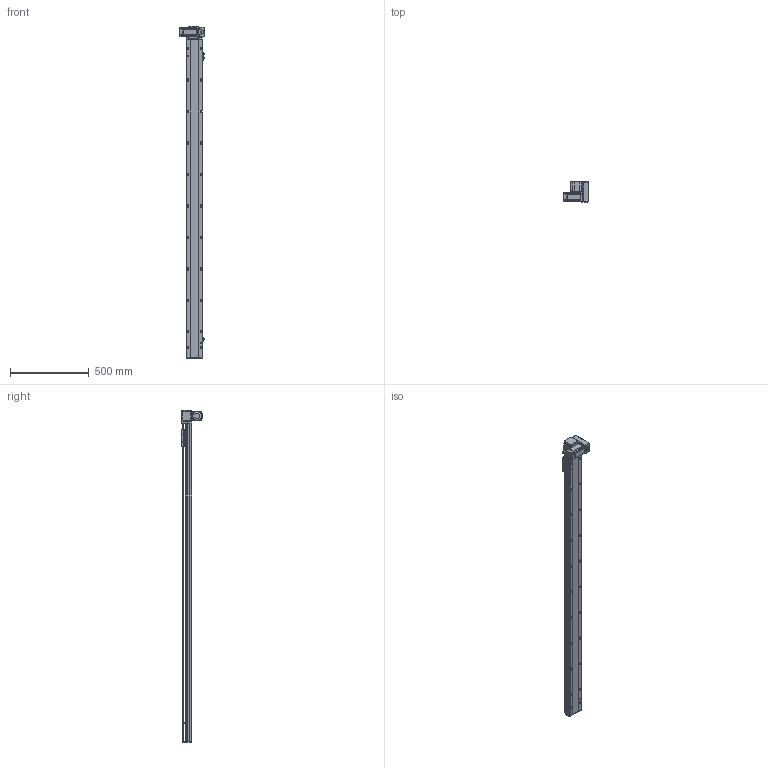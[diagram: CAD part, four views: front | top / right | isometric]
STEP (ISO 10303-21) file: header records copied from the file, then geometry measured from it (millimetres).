
FILE_DESCRIPTION (( 'STEP AP214' ), '1' );
FILE_NAME ('TPT10-L41.6-1800-RD-T20-C4.STEP', '2023-03-02T07:54:32', ( '' ), ( '' ), 'SwSTEP 2.0', 'SolidWorks 2020', '' );
FILE_SCHEMA (( 'AUTOMOTIVE_DESIGN' ));
Length unit declared in the file: millimetre
Products named in the file (11): hexagon head bolts-full thread gb_GB_FASTENER_BOLT_STBAB A M5X16-N; TPT10-L41.6-1800-RD-T20-C4; hex nuts, style 1-grades ab gb_GB_FASTENER_NUT_SNAB1 M3-N; 葩璃 TPT10-L-005 賑釱MZ-102A-03^TPT10-L41.6-RD-T20-C4; 葩璃 TPT10-L-001 菁釱MZ-102A-01^TPT10-L41.6-RD-T20-C4; 葩璃 pm-t65-672^TPT10-L41.6-RD-T20-C4; 葩璃 TPT10-L-007 々湍釱MZ-169x88^TPT10-L41.6-RD-T20-C4_L; 葩璃 TPT10-L-002 奻裔MZ-102A-02^TPT10-L41.6-RD-T20-C4; 葩璃 TPT10-L-009 萇儂啣^TPT10-L41.6-RD-T20-C4_100W; hexagon socket head cap screws gb_GB_FASTENER_SCREWS_HSHCS M3X6-N; 侂狟400W
Assembly tree (22 placements, depth 2):
  TPT10-L41.6-1800-RD-T20-C4
    葩璃 TPT10-L-001 菁釱MZ-102A-01^TPT10-L41.6-RD-T20-C4
    葩璃 TPT10-L-002 奻裔MZ-102A-02^TPT10-L41.6-RD-T20-C4
    葩璃 TPT10-L-007 々湍釱MZ-169x88^TPT10-L41.6-RD-T20-C4_L
    葩璃 TPT10-L-005 賑釱MZ-102A-03^TPT10-L41.6-RD-T20-C4
    葩璃 TPT10-L-009 萇儂啣^TPT10-L41.6-RD-T20-C4_100W
    葩璃 pm-t65-672^TPT10-L41.6-RD-T20-C4  x3
    侂狟400W
    hexagon head bolts-full thread gb_GB_FASTENER_BOLT_STBAB A M5X16-N
    hexagon socket head cap screws gb_GB_FASTENER_SCREWS_HSHCS M3X6-N  x6
    hex nuts, style 1-grades ab gb_GB_FASTENER_NUT_SNAB1 M3-N  x6
Bounding box: 160.7 x 134.65 x 2110 mm (x, y, z)
Volume: 6696873.2 mm3; surface area: 1304341.3 mm2
Topology: 30 solids, 30 shells, 1792 faces, 4699 edges, 2984 vertices
Faces by surface type: plane 976, cylinder 572, cone 206, bspline 26, torus 12
Entity records: 44737 total; most frequent: CARTESIAN_POINT 8840, DIRECTION 7224, ORIENTED_EDGE 6978, EDGE_CURVE 3489, AXIS2_PLACEMENT_3D 2539, VERTEX_POINT 2275, LINE 2146, VECTOR 2146
